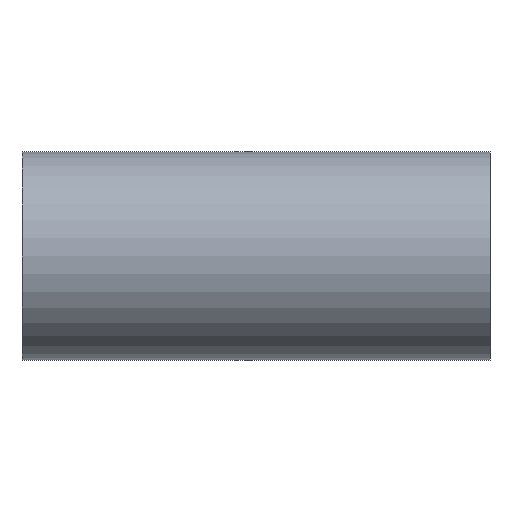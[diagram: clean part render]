
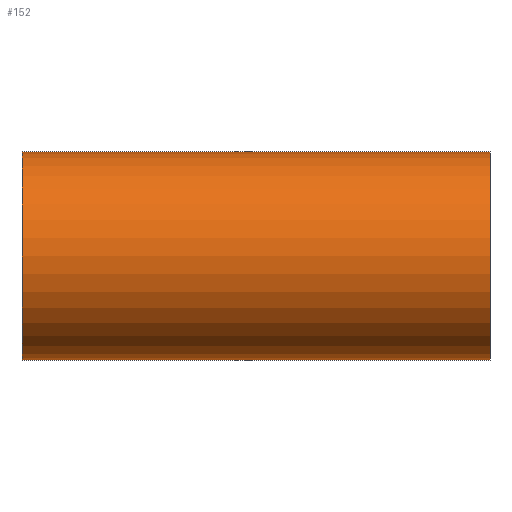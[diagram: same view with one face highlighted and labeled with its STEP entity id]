
A CAD part, front view. The second image highlights one B-rep face of the part: STEP entity #152.
In plain terms, the highlighted cylindrical face has radius 38.1 mm (diameter 76.2 mm), a partial arc.
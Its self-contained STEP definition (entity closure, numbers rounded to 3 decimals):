
#129 = CARTESIAN_POINT ( 'NONE',  ( 85.7, 0., -38.1 ) ) ;
#152 = ADVANCED_FACE ( 'NONE', ( #1371 ), #701, .T. ) ;
#158 = CARTESIAN_POINT ( 'NONE',  ( -85.7, 0., -38.1 ) ) ;
#175 = CARTESIAN_POINT ( 'NONE',  ( -85.7, 0., 38.1 ) ) ;
#228 = LINE ( 'NONE', #1732, #1412 ) ;
#266 = VERTEX_POINT ( 'NONE', #1582 ) ;
#275 = EDGE_LOOP ( 'NONE', ( #1689, #922, #1321, #362 ) ) ;
#277 = CARTESIAN_POINT ( 'NONE',  ( 85.7, 0., 0. ) ) ;
#282 = DIRECTION ( 'NONE',  ( -1., 0., 0. ) ) ;
#303 = DIRECTION ( 'NONE',  ( 0., 0., -1. ) ) ;
#320 = CARTESIAN_POINT ( 'NONE',  ( -85.7, 0., 0. ) ) ;
#326 = DIRECTION ( 'NONE',  ( 1., 0., 0. ) ) ;
#333 = DIRECTION ( 'NONE',  ( 0., 0., -1. ) ) ;
#362 = ORIENTED_EDGE ( 'NONE', *, *, #1514, .T. ) ;
#429 = EDGE_CURVE ( 'NONE', #1498, #1474, #1218, .T. ) ;
#443 = AXIS2_PLACEMENT_3D ( 'NONE', #1126, #1151, #1021 ) ;
#639 = CIRCLE ( 'NONE', #1282, 38.1 ) ;
#663 = LINE ( 'NONE', #1347, #1764 ) ;
#701 = CYLINDRICAL_SURFACE ( 'NONE', #443, 38.1 ) ;
#702 = AXIS2_PLACEMENT_3D ( 'NONE', #320, #326, #333 ) ;
#822 = DIRECTION ( 'NONE',  ( 1., 0., 0. ) ) ;
#824 = EDGE_CURVE ( 'NONE', #1498, #266, #228, .T. ) ;
#922 = ORIENTED_EDGE ( 'NONE', *, *, #429, .T. ) ;
#1021 = DIRECTION ( 'NONE',  ( 0., 0., -1. ) ) ;
#1126 = CARTESIAN_POINT ( 'NONE',  ( -85.7, 0., 0. ) ) ;
#1151 = DIRECTION ( 'NONE',  ( 1., 0., 0. ) ) ;
#1218 = CIRCLE ( 'NONE', #702, 38.1 ) ;
#1282 = AXIS2_PLACEMENT_3D ( 'NONE', #277, #282, #303 ) ;
#1321 = ORIENTED_EDGE ( 'NONE', *, *, #1638, .T. ) ;
#1347 = CARTESIAN_POINT ( 'NONE',  ( -85.7, 0., -38.1 ) ) ;
#1371 = FACE_OUTER_BOUND ( 'NONE', #275, .T. ) ;
#1412 = VECTOR ( 'NONE', #822, 1000. ) ;
#1474 = VERTEX_POINT ( 'NONE', #158 ) ;
#1484 = VERTEX_POINT ( 'NONE', #129 ) ;
#1498 = VERTEX_POINT ( 'NONE', #175 ) ;
#1514 = EDGE_CURVE ( 'NONE', #1484, #266, #639, .T. ) ;
#1582 = CARTESIAN_POINT ( 'NONE',  ( 85.7, 0., 38.1 ) ) ;
#1638 = EDGE_CURVE ( 'NONE', #1474, #1484, #663, .T. ) ;
#1689 = ORIENTED_EDGE ( 'NONE', *, *, #824, .F. ) ;
#1718 = DIRECTION ( 'NONE',  ( 1., 0., 0. ) ) ;
#1732 = CARTESIAN_POINT ( 'NONE',  ( -85.7, 0., 38.1 ) ) ;
#1764 = VECTOR ( 'NONE', #1718, 1000. ) ;
